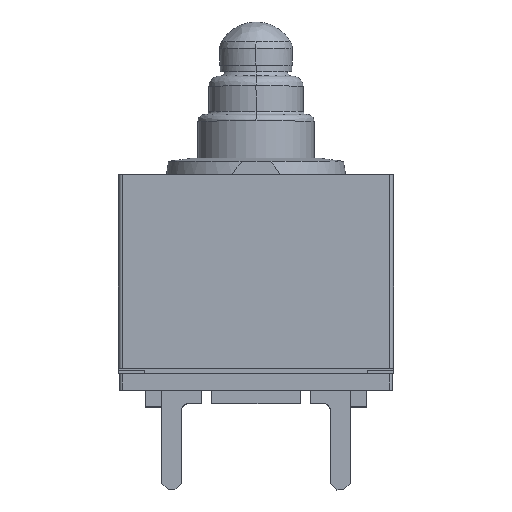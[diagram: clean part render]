
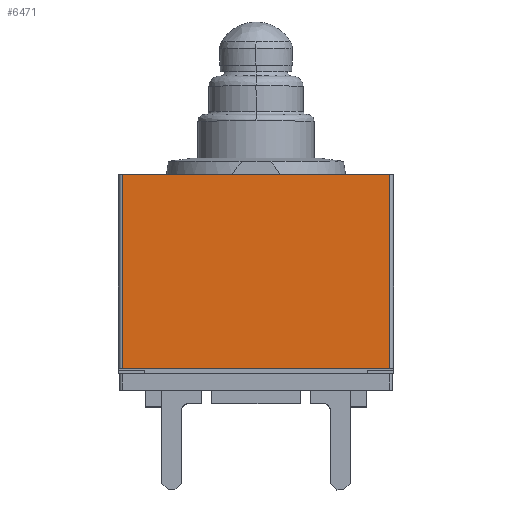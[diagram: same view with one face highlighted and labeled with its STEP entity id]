
A CAD part, top view. The second image highlights one B-rep face of the part: STEP entity #6471.
In plain terms, the highlighted planar face has unit normal (0, 0, 1).
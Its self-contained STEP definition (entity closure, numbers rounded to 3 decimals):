
#20 = DIRECTION ( 'NONE',  ( 0., -1., 0. ) ) ;
#94 = CARTESIAN_POINT ( 'NONE',  ( -4.03, 1.05, 2.65 ) ) ;
#367 = LINE ( 'NONE', #94, #2845 ) ;
#765 = LINE ( 'NONE', #3207, #1023 ) ;
#812 = VERTEX_POINT ( 'NONE', #877 ) ;
#877 = CARTESIAN_POINT ( 'NONE',  ( -4.03, 1.05, 2.65 ) ) ;
#1023 = VECTOR ( 'NONE', #3288, 1000. ) ;
#1275 = EDGE_LOOP ( 'NONE', ( #6338, #3688, #4660, #2386 ) ) ;
#1296 = EDGE_CURVE ( 'NONE', #812, #7290, #6333, .T. ) ;
#1560 = DIRECTION ( 'NONE',  ( -1., 0., 0. ) ) ;
#1610 = CARTESIAN_POINT ( 'NONE',  ( -4.03, 6.9, 2.65 ) ) ;
#1885 = EDGE_CURVE ( 'NONE', #7290, #6478, #765, .T. ) ;
#2386 = ORIENTED_EDGE ( 'NONE', *, *, #1885, .T. ) ;
#2746 = VERTEX_POINT ( 'NONE', #5172 ) ;
#2845 = VECTOR ( 'NONE', #20, 1000. ) ;
#3207 = CARTESIAN_POINT ( 'NONE',  ( 4.031, 1.05, 2.65 ) ) ;
#3288 = DIRECTION ( 'NONE',  ( 0., 1., 0. ) ) ;
#3585 = CARTESIAN_POINT ( 'NONE',  ( 4.031, 6.9, 2.65 ) ) ;
#3599 = DIRECTION ( 'NONE',  ( 1., 0., 0. ) ) ;
#3609 = DIRECTION ( 'NONE',  ( 0., 0., 1. ) ) ;
#3620 = CARTESIAN_POINT ( 'NONE',  ( -4.03, 1.05, 2.65 ) ) ;
#3625 = PLANE ( 'NONE',  #7521 ) ;
#3688 = ORIENTED_EDGE ( 'NONE', *, *, #5627, .T. ) ;
#4660 = ORIENTED_EDGE ( 'NONE', *, *, #1296, .T. ) ;
#5172 = CARTESIAN_POINT ( 'NONE',  ( -4.03, 6.9, 2.65 ) ) ;
#5627 = EDGE_CURVE ( 'NONE', #2746, #812, #367, .T. ) ;
#6322 = VECTOR ( 'NONE', #7935, 1000. ) ;
#6333 = LINE ( 'NONE', #7976, #6322 ) ;
#6338 = ORIENTED_EDGE ( 'NONE', *, *, #6797, .T. ) ;
#6471 = ADVANCED_FACE ( 'NONE', ( #7857 ), #3625, .T. ) ;
#6478 = VERTEX_POINT ( 'NONE', #3585 ) ;
#6797 = EDGE_CURVE ( 'NONE', #6478, #2746, #8076, .T. ) ;
#6838 = CARTESIAN_POINT ( 'NONE',  ( 4.031, 1.05, 2.65 ) ) ;
#7290 = VERTEX_POINT ( 'NONE', #6838 ) ;
#7521 = AXIS2_PLACEMENT_3D ( 'NONE', #3620, #3609, #3599 ) ;
#7857 = FACE_OUTER_BOUND ( 'NONE', #1275, .T. ) ;
#7935 = DIRECTION ( 'NONE',  ( 1., 0., 0. ) ) ;
#7976 = CARTESIAN_POINT ( 'NONE',  ( -4.03, 1.05, 2.65 ) ) ;
#8076 = LINE ( 'NONE', #1610, #8414 ) ;
#8414 = VECTOR ( 'NONE', #1560, 1000. ) ;
